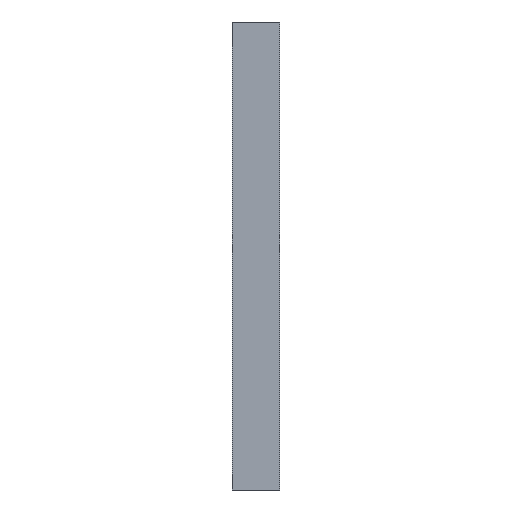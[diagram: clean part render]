
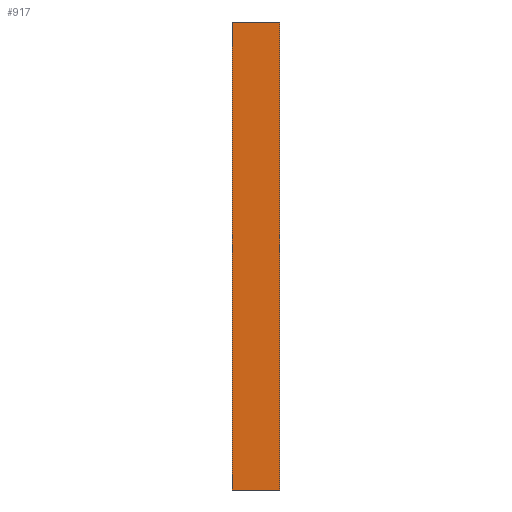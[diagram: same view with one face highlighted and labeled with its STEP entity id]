
A CAD part, left-side view. The second image highlights one B-rep face of the part: STEP entity #917.
In plain terms, the highlighted planar face has unit normal (-1, 0, 0).
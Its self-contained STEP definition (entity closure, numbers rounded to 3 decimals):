
#89 = AXIS2_PLACEMENT_3D ( 'NONE', #2058, #1051, #1803 ) ;
#107 = CARTESIAN_POINT ( 'NONE',  ( -36.381, -430.16, 12.781 ) ) ;
#205 = VERTEX_POINT ( 'NONE', #1118 ) ;
#218 = ORIENTED_EDGE ( 'NONE', *, *, #1066, .T. ) ;
#433 = CARTESIAN_POINT ( 'NONE',  ( -36.381, -430.16, -26.78 ) ) ;
#509 = CARTESIAN_POINT ( 'NONE',  ( -36.381, -430.16, 12.781 ) ) ;
#706 = LINE ( 'NONE', #509, #2136 ) ;
#711 = CARTESIAN_POINT ( 'NONE',  ( -36.381, -426.16, -26.78 ) ) ;
#776 = ORIENTED_EDGE ( 'NONE', *, *, #2312, .T. ) ;
#821 = VERTEX_POINT ( 'NONE', #433 ) ;
#917 = ADVANCED_FACE ( 'NONE', ( #1635 ), #1297, .T. ) ;
#924 = ORIENTED_EDGE ( 'NONE', *, *, #1366, .T. ) ;
#1051 = DIRECTION ( 'NONE',  ( -1., 0., 0. ) ) ;
#1066 = EDGE_CURVE ( 'NONE', #1669, #821, #1141, .T. ) ;
#1118 = CARTESIAN_POINT ( 'NONE',  ( -36.381, -426.16, 12.781 ) ) ;
#1134 = DIRECTION ( 'NONE',  ( 0., 0., -1. ) ) ;
#1141 = LINE ( 'NONE', #2100, #1371 ) ;
#1241 = EDGE_CURVE ( 'NONE', #1563, #821, #1830, .T. ) ;
#1249 = VECTOR ( 'NONE', #1663, 1000. ) ;
#1297 = PLANE ( 'NONE',  #89 ) ;
#1319 = CARTESIAN_POINT ( 'NONE',  ( -36.381, -426.16, -26.78 ) ) ;
#1366 = EDGE_CURVE ( 'NONE', #205, #1669, #1873, .T. ) ;
#1371 = VECTOR ( 'NONE', #1885, 1000. ) ;
#1563 = VERTEX_POINT ( 'NONE', #107 ) ;
#1635 = FACE_OUTER_BOUND ( 'NONE', #1944, .T. ) ;
#1640 = DIRECTION ( 'NONE',  ( 0., 1., 0. ) ) ;
#1663 = DIRECTION ( 'NONE',  ( 0., 0., -1. ) ) ;
#1669 = VERTEX_POINT ( 'NONE', #711 ) ;
#1803 = DIRECTION ( 'NONE',  ( 0., 0., 1. ) ) ;
#1830 = LINE ( 'NONE', #2441, #1249 ) ;
#1873 = LINE ( 'NONE', #1319, #2048 ) ;
#1885 = DIRECTION ( 'NONE',  ( 0., -1., 0. ) ) ;
#1944 = EDGE_LOOP ( 'NONE', ( #924, #218, #2269, #776 ) ) ;
#2048 = VECTOR ( 'NONE', #1134, 1000. ) ;
#2058 = CARTESIAN_POINT ( 'NONE',  ( -36.381, -430.16, -26.78 ) ) ;
#2100 = CARTESIAN_POINT ( 'NONE',  ( -36.381, -430.16, -26.78 ) ) ;
#2136 = VECTOR ( 'NONE', #1640, 1000. ) ;
#2269 = ORIENTED_EDGE ( 'NONE', *, *, #1241, .F. ) ;
#2312 = EDGE_CURVE ( 'NONE', #1563, #205, #706, .T. ) ;
#2441 = CARTESIAN_POINT ( 'NONE',  ( -36.381, -430.16, 12.781 ) ) ;
